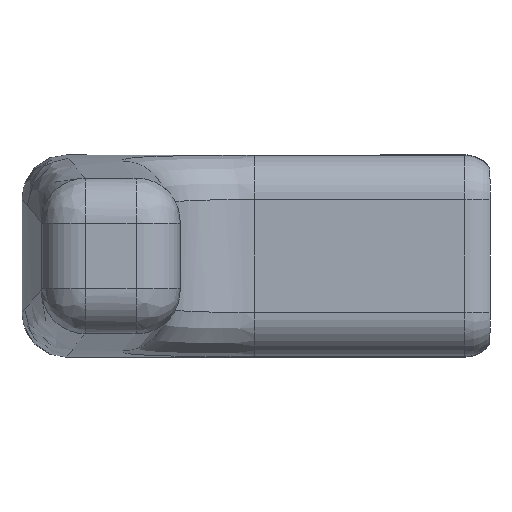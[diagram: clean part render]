
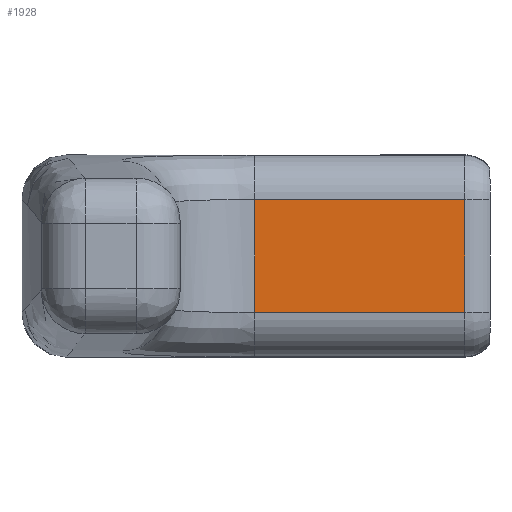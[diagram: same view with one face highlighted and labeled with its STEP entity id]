
A CAD part, left-side view. The second image highlights one B-rep face of the part: STEP entity #1928.
In plain terms, the highlighted planar face has unit normal (-1, 0, 0).
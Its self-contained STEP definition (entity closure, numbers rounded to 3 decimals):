
#34 = CARTESIAN_POINT ( 'NONE',  ( -8., 2.5, -4.459 ) ) ;
#164 = DIRECTION ( 'NONE',  ( 0., -1., 0. ) ) ;
#173 = CARTESIAN_POINT ( 'NONE',  ( -8., 26.39, -4.459 ) ) ;
#178 = LINE ( 'NONE', #173, #617 ) ;
#352 = DIRECTION ( 'NONE',  ( 0., 0., 1. ) ) ;
#359 = CARTESIAN_POINT ( 'NONE',  ( -8., 2.5, 8. ) ) ;
#372 = LINE ( 'NONE', #359, #886 ) ;
#389 = DIRECTION ( 'NONE',  ( 0., 1., 0. ) ) ;
#391 = CARTESIAN_POINT ( 'NONE',  ( -8., 26.39, 4.459 ) ) ;
#398 = LINE ( 'NONE', #391, #766 ) ;
#401 = DIRECTION ( 'NONE',  ( 0., 0., -1. ) ) ;
#405 = CARTESIAN_POINT ( 'NONE',  ( -8., 19.104, -7.872 ) ) ;
#414 = LINE ( 'NONE', #405, #768 ) ;
#419 = DIRECTION ( 'NONE',  ( 0., 1., 0. ) ) ;
#420 = ORIENTED_EDGE ( 'NONE', *, *, #1960, .T. ) ;
#424 = DIRECTION ( 'NONE',  ( 1., 0., 0. ) ) ;
#425 = CARTESIAN_POINT ( 'NONE',  ( -8., 26.39, 8. ) ) ;
#428 = ORIENTED_EDGE ( 'NONE', *, *, #1938, .T. ) ;
#432 = PLANE ( 'NONE',  #782 ) ;
#450 = FACE_OUTER_BOUND ( 'NONE', #524, .T. ) ;
#508 = ORIENTED_EDGE ( 'NONE', *, *, #1949, .T. ) ;
#514 = ORIENTED_EDGE ( 'NONE', *, *, #1053, .T. ) ;
#524 = EDGE_LOOP ( 'NONE', ( #514, #420, #508, #428 ) ) ;
#617 = VECTOR ( 'NONE', #164, 1000. ) ;
#766 = VECTOR ( 'NONE', #389, 1000. ) ;
#768 = VECTOR ( 'NONE', #401, 1000. ) ;
#782 = AXIS2_PLACEMENT_3D ( 'NONE', #425, #424, #419 ) ;
#886 = VECTOR ( 'NONE', #352, 1000. ) ;
#1053 = EDGE_CURVE ( 'NONE', #1223, #1129, #178, .T. ) ;
#1129 = VERTEX_POINT ( 'NONE', #34 ) ;
#1223 = VERTEX_POINT ( 'NONE', #2629 ) ;
#1479 = VERTEX_POINT ( 'NONE', #2140 ) ;
#1480 = VERTEX_POINT ( 'NONE', #2137 ) ;
#1928 = ADVANCED_FACE ( 'NONE', ( #450 ), #432, .F. ) ;
#1938 = EDGE_CURVE ( 'NONE', #1480, #1223, #414, .T. ) ;
#1949 = EDGE_CURVE ( 'NONE', #1479, #1480, #398, .T. ) ;
#1960 = EDGE_CURVE ( 'NONE', #1129, #1479, #372, .T. ) ;
#2137 = CARTESIAN_POINT ( 'NONE',  ( -8., 19.104, 4.459 ) ) ;
#2140 = CARTESIAN_POINT ( 'NONE',  ( -8., 2.5, 4.459 ) ) ;
#2629 = CARTESIAN_POINT ( 'NONE',  ( -8., 19.104, -4.459 ) ) ;
